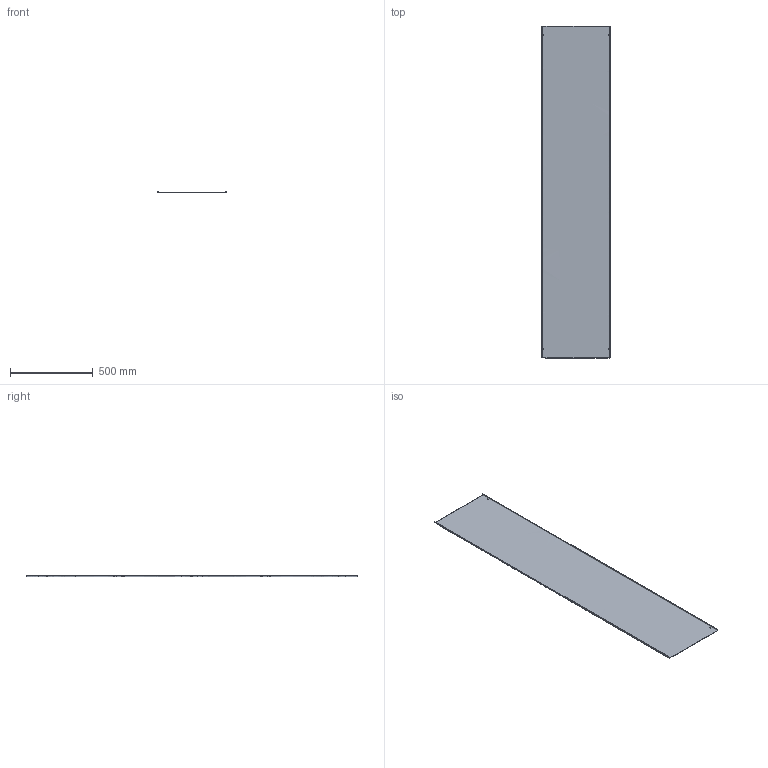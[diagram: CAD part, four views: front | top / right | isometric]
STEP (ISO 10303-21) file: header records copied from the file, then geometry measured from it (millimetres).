
FILE_DESCRIPTION(/* description */ (''),/* implementation_level */ '2;1');
FILE_NAME(/* name */ 'VZM400',/* time_stamp */ '2012-11-29T22:53:28+01:00',/* author */ (''),/* organization */ (''),/* preprocessor_version */ 'ST-DEVELOPER v10',/* originating_system */ '',/* authorisation */ '');
FILE_SCHEMA (('AUTOMOTIVE_DESIGN_CC2'));
Length unit declared in the file: millimetre
Products named in the file (1): 1
Bounding box: 411 x 2002 x 10.5 mm (x, y, z)
Surface area: 1680347.2 mm2 (no closed solid volume)
Topology: 0 solids, 22 shells, 22 faces, 120 edges, 120 vertices
Faces by surface type: plane 18, bspline 4
Entity records: 1488 total; most frequent: CARTESIAN_POINT 644, ORIENTED_EDGE 120, EDGE_CURVE 120, VERTEX_POINT 120, B_SPLINE_CURVE_WITH_KNOTS 104, EDGE_LOOP 30, COLOUR_RGB 22, FILL_AREA_STYLE_COLOUR 22
